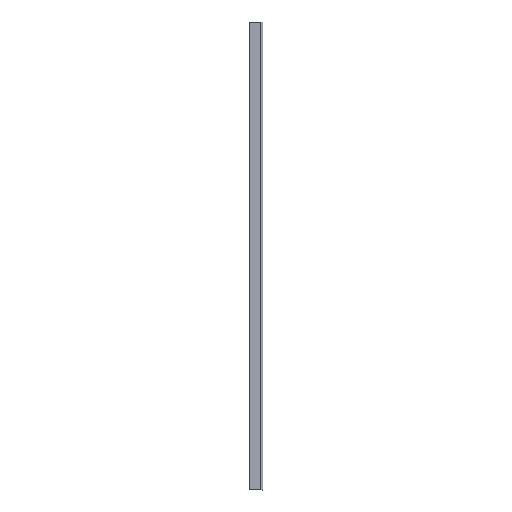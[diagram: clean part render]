
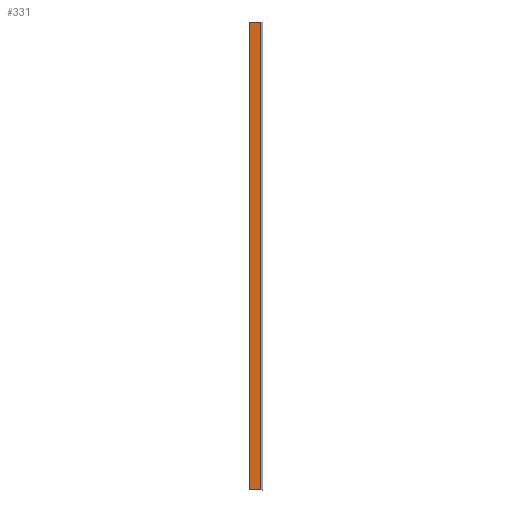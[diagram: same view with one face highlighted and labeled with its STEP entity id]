
A CAD part, top view. The second image highlights one B-rep face of the part: STEP entity #331.
In plain terms, the highlighted planar face has unit normal (0, 0, 1).
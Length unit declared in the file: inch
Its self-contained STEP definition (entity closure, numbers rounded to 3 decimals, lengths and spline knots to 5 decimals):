
#35=FACE_OUTER_BOUND('',#53,.T.);
#53=EDGE_LOOP('',(#229,#230,#231,#232));
#73=LINE('',#510,#109);
#74=LINE('',#513,#110);
#75=LINE('',#515,#111);
#76=LINE('',#516,#112);
#109=VECTOR('',#411,0.3937);
#110=VECTOR('',#414,0.3937);
#111=VECTOR('',#415,0.3937);
#112=VECTOR('',#416,0.3937);
#145=VERTEX_POINT('',#506);
#146=VERTEX_POINT('',#508);
#147=VERTEX_POINT('',#512);
#148=VERTEX_POINT('',#514);
#179=EDGE_CURVE('',#145,#146,#73,.T.);
#180=EDGE_CURVE('',#147,#145,#74,.T.);
#181=EDGE_CURVE('',#148,#146,#75,.T.);
#182=EDGE_CURVE('',#147,#148,#76,.T.);
#229=ORIENTED_EDGE('',*,*,#180,.T.);
#230=ORIENTED_EDGE('',*,*,#179,.T.);
#231=ORIENTED_EDGE('',*,*,#181,.F.);
#232=ORIENTED_EDGE('',*,*,#182,.F.);
#318=PLANE('',#371);
#331=ADVANCED_FACE('',(#35),#318,.T.);
#371=AXIS2_PLACEMENT_3D('',#511,#412,#413);
#411=DIRECTION('',(0.,1.,0.));
#412=DIRECTION('center_axis',(0.,0.,1.));
#413=DIRECTION('ref_axis',(1.,0.,0.));
#414=DIRECTION('',(1.,0.,0.));
#415=DIRECTION('',(1.,0.,0.));
#416=DIRECTION('',(0.,1.,0.));
#506=CARTESIAN_POINT('',(-2.62042,0.,0.20506));
#508=CARTESIAN_POINT('',(-2.62042,120.,0.20506));
#510=CARTESIAN_POINT('',(-2.62042,0.,0.20506));
#511=CARTESIAN_POINT('Origin',(-5.47198,0.,0.20506));
#512=CARTESIAN_POINT('',(-5.47198,0.,0.20506));
#513=CARTESIAN_POINT('',(-5.47198,0.,0.20506));
#514=CARTESIAN_POINT('',(-5.47198,120.,0.20506));
#515=CARTESIAN_POINT('',(-5.47198,120.,0.20506));
#516=CARTESIAN_POINT('',(-5.47198,0.,0.20506));
